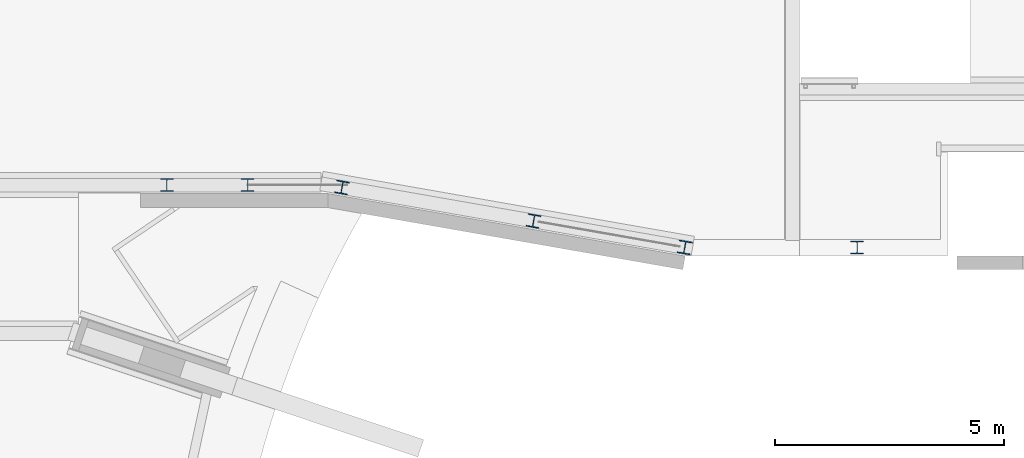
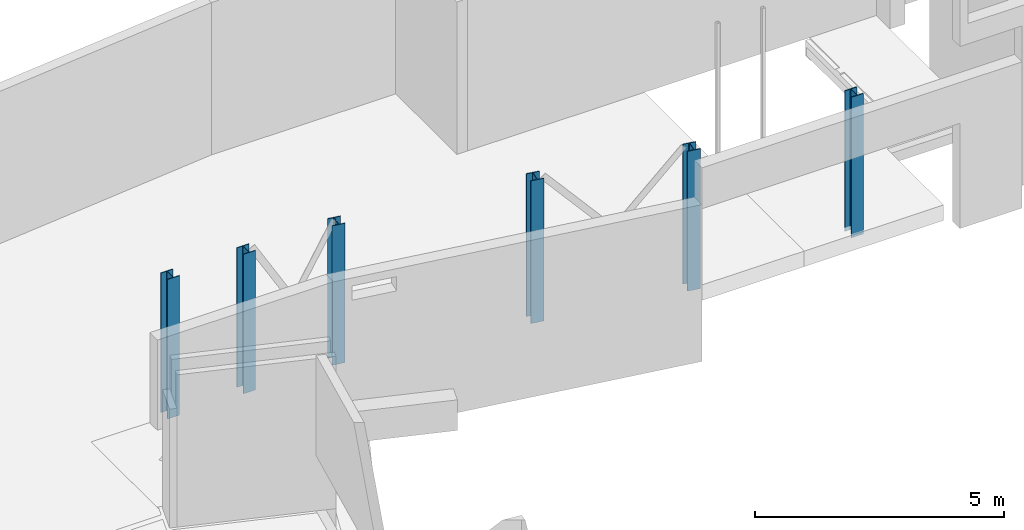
# One storey, part 8 of 37: 6 columns.
"""IFC2X3 building model written with IfcOpenShell, lengths in millimetres."""

from ifc_helpers import new_model, entity, si_unit, converted_unit, derived_unit, direction, frame, frame_2d, origin, place, context, subcontext, project, spatial, polyline, circle_curve, parameter, trimmed, segment, composite_curve, outline, extrude, source, transform, mapped, material, type_object, type_shapes, element, save


model = new_model("IFC2X3")

# Units and contexts
model_context = context("Model", 3, precision=0.01, world=origin(), true_north=direction((6.12303176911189e-17, 1.0)))
body_context = subcontext(model_context, "Body", "Model", "MODEL_VIEW")
ifc_project = project(units=[si_unit("LENGTHUNIT", "METRE", prefix="MILLI"), si_unit("AREAUNIT", "SQUARE_METRE", prefix="MILLI"), si_unit("VOLUMEUNIT", "CUBIC_METRE"), converted_unit("PLANEANGLEUNIT", "DEGREE", entity("IfcRatioMeasure", 0.0174532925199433), si_unit("PLANEANGLEUNIT", "RADIAN"), dimensions=[0, 0, 0, 0, 0, 0, 0]), si_unit("MASSUNIT", "GRAM", prefix="KILO"), derived_unit("MASSDENSITYUNIT", [(si_unit("MASSUNIT", "GRAM", prefix="KILO"), 1), (si_unit("LENGTHUNIT", "METRE"), -3)]), derived_unit("MOMENTOFINERTIAUNIT", [(si_unit("LENGTHUNIT", "METRE"), 4)]), si_unit("TIMEUNIT", "SECOND"), si_unit("FREQUENCYUNIT", "HERTZ"), si_unit("THERMODYNAMICTEMPERATUREUNIT", "DEGREE_CELSIUS"), derived_unit("THERMALTRANSMITTANCEUNIT", [(si_unit("MASSUNIT", "GRAM", prefix="KILO"), 1), (si_unit("THERMODYNAMICTEMPERATUREUNIT", "KELVIN"), -1), (si_unit("TIMEUNIT", "SECOND"), -3)]), derived_unit("VOLUMETRICFLOWRATEUNIT", [(si_unit("LENGTHUNIT", "METRE"), 3), (si_unit("TIMEUNIT", "SECOND"), -1)]), si_unit("ELECTRICCURRENTUNIT", "AMPERE"), si_unit("ELECTRICVOLTAGEUNIT", "VOLT"), si_unit("POWERUNIT", "WATT"), si_unit("FORCEUNIT", "NEWTON", prefix="KILO"), si_unit("ILLUMINANCEUNIT", "LUX"), si_unit("LUMINOUSFLUXUNIT", "LUMEN"), si_unit("LUMINOUSINTENSITYUNIT", "CANDELA"), derived_unit("USERDEFINED", [(si_unit("MASSUNIT", "GRAM", prefix="KILO"), -1), (si_unit("LENGTHUNIT", "METRE"), -2), (si_unit("TIMEUNIT", "SECOND"), 3), (si_unit("LUMINOUSFLUXUNIT", "LUMEN"), 1)]), derived_unit("LINEARVELOCITYUNIT", [(si_unit("LENGTHUNIT", "METRE"), 1), (si_unit("TIMEUNIT", "SECOND"), -1)]), si_unit("PRESSUREUNIT", "PASCAL"), derived_unit("USERDEFINED", [(si_unit("LENGTHUNIT", "METRE"), -2), (si_unit("MASSUNIT", "GRAM", prefix="KILO"), 1), (si_unit("TIMEUNIT", "SECOND"), -2)]), derived_unit("LINEARFORCEUNIT", [(si_unit("MASSUNIT", "GRAM", prefix="KILO"), 1), (si_unit("LENGTHUNIT", "METRE"), 1), (si_unit("TIMEUNIT", "SECOND"), -2), (si_unit("LENGTHUNIT", "METRE"), -1)]), derived_unit("PLANARFORCEUNIT", [(si_unit("MASSUNIT", "GRAM", prefix="KILO"), 1), (si_unit("LENGTHUNIT", "METRE"), 1), (si_unit("TIMEUNIT", "SECOND"), -2), (si_unit("LENGTHUNIT", "METRE"), -2)])], contexts=[model_context])

# Site, building, storey
site_placement = place(None, origin())
site = spatial("IfcSite", under=ifc_project, at=site_placement, Name="Theater aan de Parade", CompositionType="ELEMENT")
building_placement = place(site_placement, origin())
building = spatial("IfcBuilding", under=site, at=building_placement, Name="Theater aan de Parade", CompositionType="ELEMENT")
storey_placement = place(building_placement, frame((0.0, 0.0, 5020.0)))
storey = spatial("IfcBuildingStorey", under=building, at=storey_placement, Name="01 eerste verdieping", CompositionType="ELEMENT", Elevation=5020.0)

# Columns
ifc_material = material(Name="00_PBT_MAT_staal_S355")
column_type_1 = type_object("IfcColumnType", Name="28_PBT_SC_staal_H-profiel:S355_HE280B", PredefinedType="COLUMN", material=ifc_material)
shared_shape_1 = source(origin(), body_context, "Body", "SweptSolid", [
    extrude(outline(composite_curve([segment(polyline([(122.0, -140.0), (140.0, -140.0)]), True, "CONTINUOUS"), segment(polyline([(140.0, -140.0), (140.0, 140.0)]), True, "CONTINUOUS"), segment(polyline([(140.0, 140.0), (122.0, 140.0)]), True, "CONTINUOUS"), segment(polyline([(122.0, 140.0), (122.0, 29.2500000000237)]), True, "CONTINUOUS"), segment(trimmed(circle_curve(frame_2d((98.0, 29.2500000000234), x_axis=(1.0, 0.0)), 24.000000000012), [parameter(270.000000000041)], [parameter(0.0)], True, "PARAMETER"), False, "CONTINUOUS"), segment(polyline([(98.0, 5.25000000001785), (-98.0, 5.25000000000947)]), True, "CONTINUOUS"), segment(trimmed(circle_curve(frame_2d((-98.0, 29.2500000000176), x_axis=(0.0, -1.0)), 24.000000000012), [parameter(270.000000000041)], [parameter(0.0)], True, "PARAMETER"), False, "CONTINUOUS"), segment(polyline([(-122.0, 29.2500000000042), (-122.0, 140.0)]), True, "CONTINUOUS"), segment(polyline([(-122.0, 140.0), (-140.0, 140.0)]), True, "CONTINUOUS"), segment(polyline([(-140.0, 140.0), (-140.0, -140.0)]), True, "CONTINUOUS"), segment(polyline([(-140.0, -140.0), (-122.0, -140.0)]), True, "CONTINUOUS"), segment(polyline([(-122.0, -140.0), (-122.0, -29.2500000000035)]), True, "CONTINUOUS"), segment(trimmed(circle_curve(frame_2d((-98.0, -29.2500000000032), x_axis=(-1.0, 0.0)), 24.000000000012), [parameter(270.000000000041)], [parameter(0.0)], True, "PARAMETER"), False, "CONTINUOUS"), segment(polyline([(-98.0, -5.24999999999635), (98.0, -5.24999999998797)]), True, "CONTINUOUS"), segment(trimmed(circle_curve(frame_2d((98.0, -29.2499999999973), x_axis=(0.0, 1.0)), 24.000000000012), [parameter(270.000000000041)], [parameter(0.0)], True, "PARAMETER"), False, "CONTINUOUS"), segment(polyline([(122.0, -29.249999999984), (122.0, -140.0)]), True, "CONTINUOUS")], self_intersect=False)), frame((56185.6044607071, 43612.1397766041, 4855.0), z_axis=(0.0, 0.0, 1.0), x_axis=(0.172380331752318, 0.985030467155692, 0.0)), (0.0, 0.0, 1.0), 3495.0),
])
type_shapes(column_type_1, [shared_shape_1])
column_1_placement = place(storey_placement, frame((0.0, 0.0, -5020.0)))
element("IfcColumn", 1, at=column_1_placement, inside=storey, type_object=column_type_1, material=ifc_material, Name="28_PBT_SC_staal_H-profiel:S355_HE280B", ObjectType="28_PBT_SC_staal_H-profiel:S355_HE280B", context=body_context, shape_type="MappedRepresentation", body=[
    mapped(shared_shape_1, transform((0.0, 0.0, 0.0), scale=1.0)),
])
column_type_2 = type_object("IfcColumnType", Name="28_PBT_SC_staal_H-profiel:S355_HE280B", PredefinedType="COLUMN", material=ifc_material)
shared_shape_2 = source(origin(), body_context, "Body", "SweptSolid", [
    extrude(outline(composite_curve([segment(polyline([(122.0, -140.0), (140.0, -140.0)]), True, "CONTINUOUS"), segment(polyline([(140.0, -140.0), (140.0, 140.0)]), True, "CONTINUOUS"), segment(polyline([(140.0, 140.0), (122.0, 140.0)]), True, "CONTINUOUS"), segment(polyline([(122.0, 140.0), (122.0, 29.2500000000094)]), True, "CONTINUOUS"), segment(trimmed(circle_curve(frame_2d((98.0, 29.2500000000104), x_axis=(1.0, 0.0)), 24.000000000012), [parameter(270.000000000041)], [parameter(0.0)], True, "PARAMETER"), False, "CONTINUOUS"), segment(polyline([(98.0, 5.25000000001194), (-98.0, 5.24999999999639)]), True, "CONTINUOUS"), segment(trimmed(circle_curve(frame_2d((-98.0, 29.2500000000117), x_axis=(0.0, -1.0)), 24.000000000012), [parameter(270.000000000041)], [parameter(0.0)], True, "PARAMETER"), False, "CONTINUOUS"), segment(polyline([(-122.0, 29.2499999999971), (-122.0, 140.0)]), True, "CONTINUOUS"), segment(polyline([(-122.0, 140.0), (-140.0, 140.0)]), True, "CONTINUOUS"), segment(polyline([(-140.0, 140.0), (-140.0, -140.0)]), True, "CONTINUOUS"), segment(polyline([(-140.0, -140.0), (-122.0, -140.0)]), True, "CONTINUOUS"), segment(polyline([(-122.0, -140.0), (-122.0, -29.2500000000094)]), True, "CONTINUOUS"), segment(trimmed(circle_curve(frame_2d((-98.0, -29.2500000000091), x_axis=(-1.0, 0.0)), 24.000000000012), [parameter(270.000000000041)], [parameter(0.0)], True, "PARAMETER"), False, "CONTINUOUS"), segment(polyline([(-98.0, -5.25000000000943), (98.0, -5.24999999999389)]), True, "CONTINUOUS"), segment(trimmed(circle_curve(frame_2d((98.0, -29.2500000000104), x_axis=(0.0, 1.0)), 24.000000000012), [parameter(270.000000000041)], [parameter(0.0)], True, "PARAMETER"), False, "CONTINUOUS"), segment(polyline([(122.0, -29.2499999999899), (122.0, -140.0)]), True, "CONTINUOUS")], self_intersect=False)), frame((59483.5460413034, 43035.0, 4845.0), z_axis=(0.0, 0.0, 1.0), x_axis=(0.172380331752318, 0.985030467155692, 0.0)), (0.0, 0.0, 1.0), 3425.00000000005),
])
type_shapes(column_type_2, [shared_shape_2])
column_2_placement = place(storey_placement, frame((0.0, 0.0, -5020.0)))
element("IfcColumn", 2, at=column_2_placement, inside=storey, type_object=column_type_2, material=ifc_material, Name="28_PBT_SC_staal_H-profiel:S355_HE280B", ObjectType="28_PBT_SC_staal_H-profiel:S355_HE280B", context=body_context, shape_type="MappedRepresentation", body=[
    mapped(shared_shape_2, transform((0.0, 0.0, 0.0), scale=1.0)),
])
column_type_3 = type_object("IfcColumnType", Name="28_PBT_SC_staal_H-profiel:S355_HE280B", PredefinedType="COLUMN", material=ifc_material)
shared_shape_3 = source(origin(), body_context, "Body", "SweptSolid", [
    extrude(outline(composite_curve([segment(polyline([(122.0, -140.0), (140.0, -140.0)]), True, "CONTINUOUS"), segment(polyline([(140.0, -140.0), (140.0, 140.0)]), True, "CONTINUOUS"), segment(polyline([(140.0, 140.0), (122.0, 140.0)]), True, "CONTINUOUS"), segment(polyline([(122.0, 140.0), (122.0, 29.2500000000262)]), True, "CONTINUOUS"), segment(trimmed(circle_curve(frame_2d((98.0, 29.250000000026), x_axis=(1.0, 0.0)), 24.000000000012), [parameter(270.000000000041)], [parameter(0.0)], True, "PARAMETER"), False, "CONTINUOUS"), segment(polyline([(98.0, 5.25000000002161), (-98.0, 5.25000000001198)]), True, "CONTINUOUS"), segment(trimmed(circle_curve(frame_2d((-98.0, 29.2500000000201), x_axis=(0.0, -1.0)), 24.000000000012), [parameter(270.000000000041)], [parameter(0.0)], True, "PARAMETER"), False, "CONTINUOUS"), segment(polyline([(-122.0, 29.2500000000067), (-122.0, 140.0)]), True, "CONTINUOUS"), segment(polyline([(-122.0, 140.0), (-140.0, 140.0)]), True, "CONTINUOUS"), segment(polyline([(-140.0, 140.0), (-140.0, -140.0)]), True, "CONTINUOUS"), segment(polyline([(-140.0, -140.0), (-122.0, -140.0)]), True, "CONTINUOUS"), segment(polyline([(-122.0, -140.0), (-122.0, -29.250000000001)]), True, "CONTINUOUS"), segment(trimmed(circle_curve(frame_2d((-98.0, -29.2500000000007), x_axis=(-1.0, 0.0)), 24.000000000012), [parameter(270.000000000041)], [parameter(0.0)], True, "PARAMETER"), False, "CONTINUOUS"), segment(polyline([(-98.0, -5.24999999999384), (98.0, -5.24999999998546)]), True, "CONTINUOUS"), segment(trimmed(circle_curve(frame_2d((98.0, -29.2499999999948), x_axis=(0.0, 1.0)), 24.000000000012), [parameter(270.000000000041)], [parameter(0.0)], True, "PARAMETER"), False, "CONTINUOUS"), segment(polyline([(122.0, -29.2499999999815), (122.0, -140.0)]), True, "CONTINUOUS")], self_intersect=False)), frame((52005.6821149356, 44343.6261871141, 4855.0), z_axis=(0.0, 0.0, 1.0), x_axis=(0.172380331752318, 0.985030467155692, 0.0)), (0.0, 0.0, 1.0), 3415.0),
])
type_shapes(column_type_3, [shared_shape_3])
column_3_placement = place(storey_placement, frame((0.0, 0.0, -5020.0)))
element("IfcColumn", 3, at=column_3_placement, inside=storey, type_object=column_type_3, material=ifc_material, Name="28_PBT_SC_staal_H-profiel:S355_HE280B", ObjectType="28_PBT_SC_staal_H-profiel:S355_HE280B", context=body_context, shape_type="MappedRepresentation", body=[
    mapped(shared_shape_3, transform((0.0, 0.0, 0.0), scale=1.0)),
])
column_type_4 = type_object("IfcColumnType", Name="28_PBT_SC_staal_H-profiel:S355_HE280B", PredefinedType="COLUMN", material=ifc_material)
shared_shape_4 = source(origin(), body_context, "Body", "SweptSolid", [
    extrude(outline(composite_curve([segment(polyline([(122.0, -140.0), (140.0, -140.0)]), True, "CONTINUOUS"), segment(polyline([(140.0, -140.0), (140.0, 140.0)]), True, "CONTINUOUS"), segment(polyline([(140.0, 140.0), (122.0, 140.0)]), True, "CONTINUOUS"), segment(polyline([(122.0, 140.0), (122.0, 29.2500000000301)]), True, "CONTINUOUS"), segment(trimmed(circle_curve(frame_2d((98.0, 29.2500000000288), x_axis=(1.0, 0.0)), 24.0000000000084), [parameter(270.000000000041)], [parameter(0.0)], True, "PARAMETER"), False, "CONTINUOUS"), segment(polyline([(98.0, 5.25000000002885), (-98.0, 5.24999999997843)]), True, "CONTINUOUS"), segment(trimmed(circle_curve(frame_2d((-98.0, 29.2499999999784), x_axis=(0.0, -1.0)), 24.0000000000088), [parameter(270.000000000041)], [parameter(0.0)], True, "PARAMETER"), False, "CONTINUOUS"), segment(polyline([(-122.0, 29.2499999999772), (-122.0, 140.0)]), True, "CONTINUOUS"), segment(polyline([(-122.0, 140.0), (-140.0, 140.0)]), True, "CONTINUOUS"), segment(polyline([(-140.0, 140.0), (-140.0, -140.0)]), True, "CONTINUOUS"), segment(polyline([(-140.0, -140.0), (-122.0, -140.0)]), True, "CONTINUOUS"), segment(polyline([(-122.0, -140.0), (-122.0, -29.2500000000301)]), True, "CONTINUOUS"), segment(trimmed(circle_curve(frame_2d((-98.0, -29.2500000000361), x_axis=(-1.0, 0.0)), 24.0000000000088), [parameter(270.000000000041)], [parameter(0.0)], True, "PARAMETER"), False, "CONTINUOUS"), segment(polyline([(-98.0, -5.25000000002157), (98.0, -5.24999999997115)]), True, "CONTINUOUS"), segment(trimmed(circle_curve(frame_2d((98.0, -29.2499999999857), x_axis=(0.0, 1.0)), 24.0000000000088), [parameter(270.000000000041)], [parameter(0.0)], True, "PARAMETER"), False, "CONTINUOUS"), segment(polyline([(122.0, -29.2499999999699), (122.0, -140.0)]), True, "CONTINUOUS")], self_intersect=False)), frame((63241.5848518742, 43035.0, 4845.0), z_axis=(0.0, 0.0, 1.0), x_axis=(0.0, -1.0, 0.0)), (0.0, 0.0, 1.0), 3440.00000000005),
])
type_shapes(column_type_4, [shared_shape_4])
column_4_placement = place(storey_placement, frame((0.0, 0.0, -5020.0)))
element("IfcColumn", 4, at=column_4_placement, inside=storey, type_object=column_type_4, material=ifc_material, Name="28_PBT_SC_staal_H-profiel:S355_HE280B", ObjectType="28_PBT_SC_staal_H-profiel:S355_HE280B", context=body_context, shape_type="MappedRepresentation", body=[
    mapped(shared_shape_4, transform((0.0, 0.0, 0.0), scale=1.0)),
])
column_type_5 = type_object("IfcColumnType", Name="28_PBT_SC_staal_H-profiel:S355_HE280B", PredefinedType="COLUMN", material=ifc_material)
shared_shape_5 = source(origin(), body_context, "Body", "SweptSolid", [
    extrude(outline(composite_curve([segment(polyline([(122.0, -140.0), (140.0, -140.0)]), True, "CONTINUOUS"), segment(polyline([(140.0, -140.0), (140.0, 140.0)]), True, "CONTINUOUS"), segment(polyline([(140.0, 140.0), (122.0, 140.0)]), True, "CONTINUOUS"), segment(polyline([(122.0, 140.0), (122.0, 29.25)]), True, "CONTINUOUS"), segment(trimmed(circle_curve(frame_2d((98.0, 29.2500000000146), x_axis=(1.0, 0.0)), 24.0000000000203), [parameter(270.000000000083)], [parameter(0.0)], True, "PARAMETER"), False, "CONTINUOUS"), segment(polyline([(98.0, 5.25), (-98.0, 5.25)]), True, "CONTINUOUS"), segment(trimmed(circle_curve(frame_2d((-98.0, 29.2500000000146), x_axis=(0.0, -1.0)), 24.0000000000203), [parameter(270.000000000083)], [parameter(0.0)], True, "PARAMETER"), False, "CONTINUOUS"), segment(polyline([(-122.0, 29.2500000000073), (-122.0, 140.0)]), True, "CONTINUOUS"), segment(polyline([(-122.0, 140.0), (-140.0, 140.0)]), True, "CONTINUOUS"), segment(polyline([(-140.0, 140.0), (-140.0, -140.0)]), True, "CONTINUOUS"), segment(polyline([(-140.0, -140.0), (-122.0, -140.0)]), True, "CONTINUOUS"), segment(polyline([(-122.0, -140.0), (-122.0, -29.25)]), True, "CONTINUOUS"), segment(trimmed(circle_curve(frame_2d((-98.0, -29.2500000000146), x_axis=(-1.0, 0.0)), 24.0000000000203), [parameter(270.000000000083)], [parameter(0.0)], True, "PARAMETER"), False, "CONTINUOUS"), segment(polyline([(-98.0, -5.24999999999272), (98.0, -5.24999999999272)]), True, "CONTINUOUS"), segment(trimmed(circle_curve(frame_2d((98.0, -29.2500000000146), x_axis=(0.0, 1.0)), 24.0000000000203), [parameter(270.000000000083)], [parameter(0.0)], True, "PARAMETER"), False, "CONTINUOUS"), segment(polyline([(122.0, -29.25), (122.0, -140.0)]), True, "CONTINUOUS")], self_intersect=False)), frame((48186.4713059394, 44395.0, 4855.0), z_axis=(0.0, 0.0, 1.0), x_axis=(0.0, -1.0, 0.0)), (0.0, 0.0, 1.0), 3415.0),
])
type_shapes(column_type_5, [shared_shape_5])
column_5_placement = place(storey_placement, frame((0.0, 0.0, -5020.0)))
element("IfcColumn", 5, at=column_5_placement, inside=storey, type_object=column_type_5, material=ifc_material, Name="28_PBT_SC_staal_H-profiel:S355_HE280B", ObjectType="28_PBT_SC_staal_H-profiel:S355_HE280B", context=body_context, shape_type="MappedRepresentation", body=[
    mapped(shared_shape_5, transform((0.0, 0.0, 0.0), scale=1.0)),
])
column_type_6 = type_object("IfcColumnType", Name="28_PBT_SC_staal_H-profiel:S355_HE280B", PredefinedType="COLUMN", material=ifc_material)
shared_shape_6 = source(origin(), body_context, "Body", "SweptSolid", [
    extrude(outline(composite_curve([segment(polyline([(122.0, -140.0), (140.0, -140.0)]), True, "CONTINUOUS"), segment(polyline([(140.0, -140.0), (140.0, 140.0)]), True, "CONTINUOUS"), segment(polyline([(140.0, 140.0), (122.0, 140.0)]), True, "CONTINUOUS"), segment(polyline([(122.0, 140.0), (122.0, 29.2499999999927)]), True, "CONTINUOUS"), segment(trimmed(circle_curve(frame_2d((98.0, 29.2500000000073), x_axis=(1.0, 0.0)), 24.0000000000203), [parameter(270.000000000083)], [parameter(0.0)], True, "PARAMETER"), False, "CONTINUOUS"), segment(polyline([(98.0, 5.24999999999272), (-98.0, 5.24999999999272)]), True, "CONTINUOUS"), segment(trimmed(circle_curve(frame_2d((-98.0, 29.2500000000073), x_axis=(0.0, -1.0)), 24.0000000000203), [parameter(270.000000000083)], [parameter(0.0)], True, "PARAMETER"), False, "CONTINUOUS"), segment(polyline([(-122.0, 29.25), (-122.0, 140.0)]), True, "CONTINUOUS"), segment(polyline([(-122.0, 140.0), (-140.0, 140.0)]), True, "CONTINUOUS"), segment(polyline([(-140.0, 140.0), (-140.0, -140.0)]), True, "CONTINUOUS"), segment(polyline([(-140.0, -140.0), (-122.0, -140.0)]), True, "CONTINUOUS"), segment(polyline([(-122.0, -140.0), (-122.0, -29.2500000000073)]), True, "CONTINUOUS"), segment(trimmed(circle_curve(frame_2d((-98.0, -29.2500000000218), x_axis=(-1.0, 0.0)), 24.0000000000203), [parameter(270.000000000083)], [parameter(0.0)], True, "PARAMETER"), False, "CONTINUOUS"), segment(polyline([(-98.0, -5.25), (98.0, -5.25)]), True, "CONTINUOUS"), segment(trimmed(circle_curve(frame_2d((98.0, -29.2500000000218), x_axis=(0.0, 1.0)), 24.0000000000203), [parameter(270.000000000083)], [parameter(0.0)], True, "PARAMETER"), False, "CONTINUOUS"), segment(polyline([(122.0, -29.2500000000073), (122.0, -140.0)]), True, "CONTINUOUS")], self_intersect=False)), frame((49946.4713059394, 44395.0, 4855.0), z_axis=(0.0, 0.0, 1.0), x_axis=(0.0, -1.0, 0.0)), (0.0, 0.0, 1.0), 3415.0),
])
type_shapes(column_type_6, [shared_shape_6])
column_6_placement = place(storey_placement, frame((0.0, 0.0, -5020.0)))
element("IfcColumn", 6, at=column_6_placement, inside=storey, type_object=column_type_6, material=ifc_material, Name="28_PBT_SC_staal_H-profiel:S355_HE280B", ObjectType="28_PBT_SC_staal_H-profiel:S355_HE280B", context=body_context, shape_type="MappedRepresentation", body=[
    mapped(shared_shape_6, transform((0.0, 0.0, 0.0), scale=1.0)),
])

save(model, "model.ifc")
